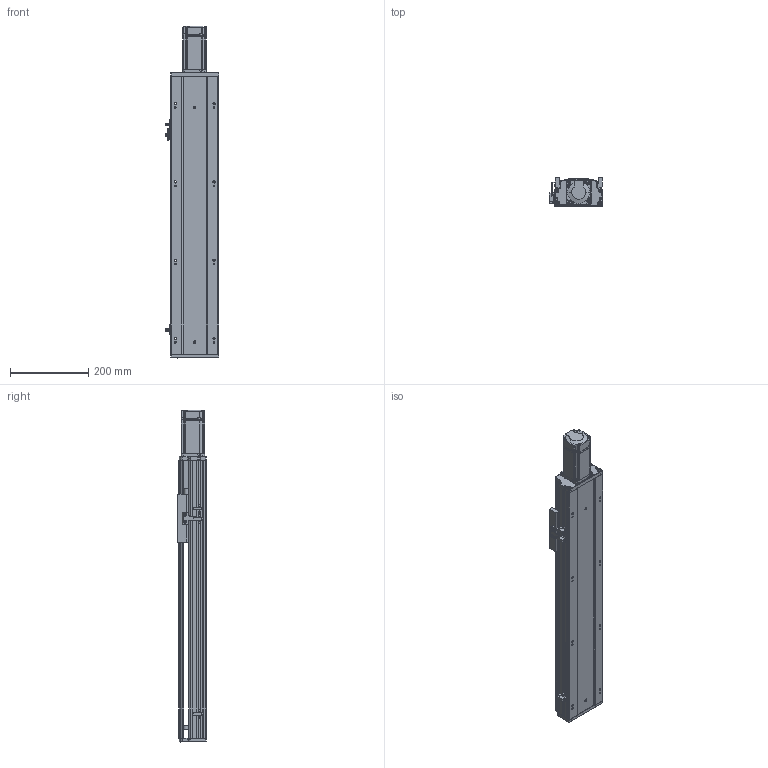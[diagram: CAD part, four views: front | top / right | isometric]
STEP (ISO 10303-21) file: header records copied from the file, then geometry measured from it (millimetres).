
FILE_DESCRIPTION (( 'STEP AP203' ), '1' );
FILE_NAME ('RY120Q-L1610-500-MK.SLDASM_0450.step', '2021-05-19T01:44:44', ( '盈信电脑' ), ( '东莞市道滘镇水果街19号' ), 'SwSTEP 2.0', 'SolidWorks 2016', '' );
FILE_SCHEMA (( 'CONFIG_CONTROL_DESIGN' ));
Length unit declared in the file: millimetre
Products named in the file (14): RY120萇儂釱FK12; RY120外置感应片(140共用）; 鞠褒坶踡蹟譫BK12 ; 15; RY120-500-MK倰第奻裔啣_0450; 侂狟400W侜督萇儂; 滅袉蝶18-10; 覜茼ん672; RY120Q-L1610-500-MK.SLDASM_0450; RY120铝滑块16丝杆（FK12）; RY120綴裔啣; 滅袉蝶18-15; RY120-500-MK倰第菁釱_0450; RY120QGB-1.8
Assembly tree (16 placements, depth 3):
  RY120Q-L1610-500-MK.SLDASM_0450
    RY120-500-MK倰第菁釱_0450
    RY120-500-MK倰第奻裔啣_0450
    侂狟400W侜督萇儂
      15
    鞠褒坶踡蹟譫BK12 
    RY120綴裔啣
    覜茼ん672  x3
    滅袉蝶18-10
    滅袉蝶18-15  x2
    RY120外置感应片(140共用）
    RY120QGB-1.8
    RY120铝滑块16丝杆（FK12）
    RY120萇儂釱FK12
Bounding box: 135.7 x 74 x 848.5 mm (x, y, z)
Volume: 2422791.9 mm3; surface area: 814270.1 mm2
Topology: 16 solids, 16 shells, 2116 faces, 5787 edges, 3696 vertices
Faces by surface type: plane 999, cylinder 795, cone 221, bspline 101
Entity records: 68945 total; most frequent: CARTESIAN_POINT 18955, ORIENTED_EDGE 10334, DIRECTION 9803, EDGE_CURVE 5167, VERTEX_POINT 3364, AXIS2_PLACEMENT_3D 3360, LINE 3083, VECTOR 3083
